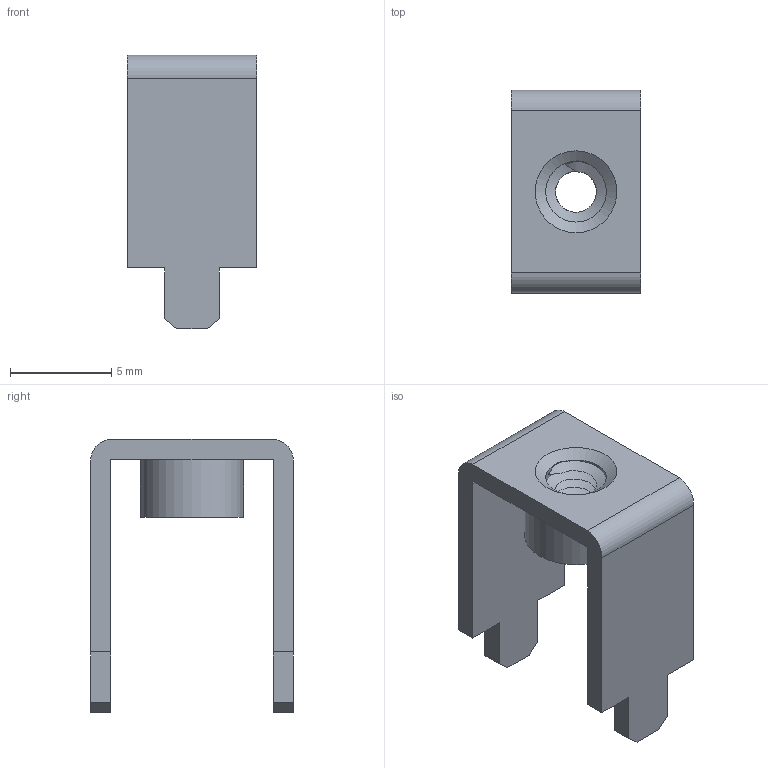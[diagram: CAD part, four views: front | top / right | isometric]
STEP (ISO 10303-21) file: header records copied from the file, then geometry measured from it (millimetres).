
FILE_DESCRIPTION(('FreeCAD Model'),'2;1');
FILE_NAME('Open CASCADE Shape Model','2026-07-27T22:27:09',('FreeCAD'),( 'FreeCAD'),'Open CASCADE STEP processor 7.9','FreeCAD','Unknown');
FILE_SCHEMA(('AUTOMOTIVE_DESIGN { 1 0 10303 214 1 1 1 1 }'));
Length unit declared in the file: millimetre
Products named in the file (1): Open CASCADE STEP translator 7.9 1
Bounding box: 6.4 x 10.01 x 13.49 mm (x, y, z)
Volume: 239.4 mm3; surface area: 653.4 mm2
Topology: 2 solids, 2 shells, 35 faces, 95 edges, 57 vertices
Faces by surface type: plane 23, bspline 12
Entity records: 2243 total; most frequent: CARTESIAN_POINT 1404, ORIENTED_EDGE 174, DIRECTION 138, EDGE_CURVE 87, LINE 60, VECTOR 60, VERTEX_POINT 57, AXIS2_PLACEMENT_3D 39
